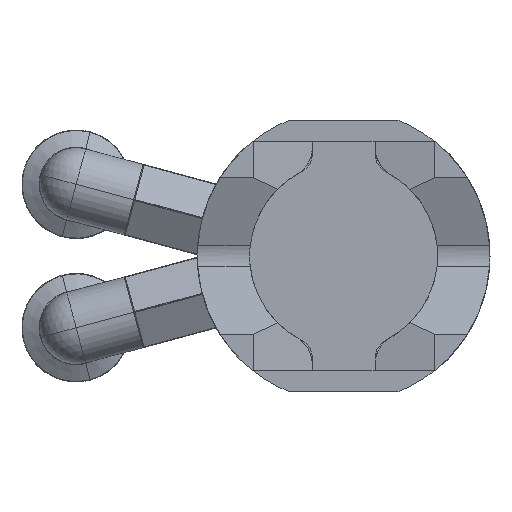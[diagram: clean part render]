
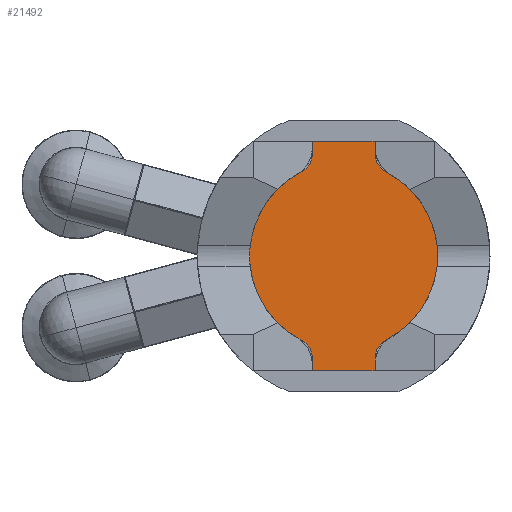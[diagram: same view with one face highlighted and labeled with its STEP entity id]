
A CAD part, front view. The second image highlights one B-rep face of the part: STEP entity #21492.
In plain terms, the highlighted planar face has unit normal (0, -1, 0).
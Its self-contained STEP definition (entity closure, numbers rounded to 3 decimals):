
#87 = FACE_OUTER_BOUND ( 'NONE', #12064, .T. ) ;
#566 = EDGE_CURVE ( 'NONE', #17116, #2192, #9959, .T. ) ;
#1217 = LINE ( 'NONE', #23677, #22779 ) ;
#1314 = CARTESIAN_POINT ( 'NONE',  ( -4.091, 0., 8.017 ) ) ;
#1329 = CARTESIAN_POINT ( 'NONE',  ( -3., 0., 11. ) ) ;
#1337 = LINE ( 'NONE', #10671, #21092 ) ;
#1356 = EDGE_CURVE ( 'NONE', #10231, #7413, #11664, .T. ) ;
#1760 = EDGE_CURVE ( 'NONE', #11269, #5629, #8771, .T. ) ;
#2192 = VERTEX_POINT ( 'NONE', #1329 ) ;
#2257 = DIRECTION ( 'NONE',  ( 0., 1., 0. ) ) ;
#2764 = ORIENTED_EDGE ( 'NONE', *, *, #22683, .T. ) ;
#3322 = CARTESIAN_POINT ( 'NONE',  ( -3., 0., -11. ) ) ;
#3832 = ORIENTED_EDGE ( 'NONE', *, *, #566, .T. ) ;
#3840 = VECTOR ( 'NONE', #5884, 1000. ) ;
#3984 = EDGE_CURVE ( 'NONE', #5629, #17116, #13552, .T. ) ;
#4195 = AXIS2_PLACEMENT_3D ( 'NONE', #15300, #2257, #7775 ) ;
#4294 = CARTESIAN_POINT ( 'NONE',  ( 4.091, 0., -8.017 ) ) ;
#4378 = CARTESIAN_POINT ( 'NONE',  ( -3., 0., -9.798 ) ) ;
#4511 = DIRECTION ( 'NONE',  ( 1., 0., 0. ) ) ;
#4578 = VERTEX_POINT ( 'NONE', #13258 ) ;
#4913 = EDGE_CURVE ( 'NONE', #4578, #23754, #1217, .T. ) ;
#5629 = VERTEX_POINT ( 'NONE', #19044 ) ;
#5635 = CIRCLE ( 'NONE', #9965, 9. ) ;
#5702 = DIRECTION ( 'NONE',  ( 0., 0., 1. ) ) ;
#5884 = DIRECTION ( 'NONE',  ( -1., 0., 0. ) ) ;
#6121 = EDGE_CURVE ( 'NONE', #10354, #10231, #17650, .T. ) ;
#6195 = ORIENTED_EDGE ( 'NONE', *, *, #1760, .T. ) ;
#6708 = DIRECTION ( 'NONE',  ( 0., 0., -1. ) ) ;
#6886 = DIRECTION ( 'NONE',  ( 0., 1., 0. ) ) ;
#6974 = VERTEX_POINT ( 'NONE', #18476 ) ;
#7401 = ORIENTED_EDGE ( 'NONE', *, *, #13319, .T. ) ;
#7413 = VERTEX_POINT ( 'NONE', #4378 ) ;
#7775 = DIRECTION ( 'NONE',  ( 0., 0., 1. ) ) ;
#7792 = DIRECTION ( 'NONE',  ( 0., 1., 0. ) ) ;
#8106 = ORIENTED_EDGE ( 'NONE', *, *, #4913, .T. ) ;
#8491 = AXIS2_PLACEMENT_3D ( 'NONE', #23718, #6886, #20207 ) ;
#8657 = ORIENTED_EDGE ( 'NONE', *, *, #3984, .T. ) ;
#8771 = CIRCLE ( 'NONE', #18591, 2. ) ;
#8903 = VECTOR ( 'NONE', #9341, 1000. ) ;
#9090 = DIRECTION ( 'NONE',  ( 0., 1., 0. ) ) ;
#9341 = DIRECTION ( 'NONE',  ( 0., 0., -1. ) ) ;
#9959 = LINE ( 'NONE', #17478, #3840 ) ;
#9965 = AXIS2_PLACEMENT_3D ( 'NONE', #16731, #18674, #20052 ) ;
#10052 = CARTESIAN_POINT ( 'NONE',  ( -3., 0., 0. ) ) ;
#10231 = VERTEX_POINT ( 'NONE', #23190 ) ;
#10354 = VERTEX_POINT ( 'NONE', #1314 ) ;
#10565 = CIRCLE ( 'NONE', #23105, 2. ) ;
#10671 = CARTESIAN_POINT ( 'NONE',  ( 0., 0., -11. ) ) ;
#10742 = CARTESIAN_POINT ( 'NONE',  ( 3., 0., 11. ) ) ;
#11251 = CARTESIAN_POINT ( 'NONE',  ( 5., 0., -9.798 ) ) ;
#11269 = VERTEX_POINT ( 'NONE', #12335 ) ;
#11575 = EDGE_CURVE ( 'NONE', #6974, #10354, #19095, .T. ) ;
#11664 = CIRCLE ( 'NONE', #4195, 2. ) ;
#11994 = CARTESIAN_POINT ( 'NONE',  ( 0., 0., 0. ) ) ;
#12064 = EDGE_LOOP ( 'NONE', ( #22714, #17621, #7401, #12138, #8106, #23927, #23513, #6195, #8657, #3832, #2764, #12264 ) ) ;
#12111 = VERTEX_POINT ( 'NONE', #4294 ) ;
#12138 = ORIENTED_EDGE ( 'NONE', *, *, #13461, .T. ) ;
#12256 = AXIS2_PLACEMENT_3D ( 'NONE', #22559, #16580, #5702 ) ;
#12264 = ORIENTED_EDGE ( 'NONE', *, *, #11575, .T. ) ;
#12335 = CARTESIAN_POINT ( 'NONE',  ( 4.091, 0., 8.017 ) ) ;
#12796 = VECTOR ( 'NONE', #18981, 1000. ) ;
#13258 = CARTESIAN_POINT ( 'NONE',  ( 3., 0., -11. ) ) ;
#13319 = EDGE_CURVE ( 'NONE', #7413, #16030, #16862, .T. ) ;
#13461 = EDGE_CURVE ( 'NONE', #16030, #4578, #1337, .T. ) ;
#13552 = LINE ( 'NONE', #20954, #12796 ) ;
#13717 = DIRECTION ( 'NONE',  ( 0., -1., 0. ) ) ;
#14756 = CARTESIAN_POINT ( 'NONE',  ( 5., 0., 9.798 ) ) ;
#15068 = PLANE ( 'NONE',  #12256 ) ;
#15193 = DIRECTION ( 'NONE',  ( 0., 0., 1. ) ) ;
#15296 = AXIS2_PLACEMENT_3D ( 'NONE', #11994, #13717, #17431 ) ;
#15300 = CARTESIAN_POINT ( 'NONE',  ( -5., 0., -9.798 ) ) ;
#16030 = VERTEX_POINT ( 'NONE', #3322 ) ;
#16103 = LINE ( 'NONE', #10052, #16277 ) ;
#16277 = VECTOR ( 'NONE', #6708, 1000. ) ;
#16580 = DIRECTION ( 'NONE',  ( 0., 1., 0. ) ) ;
#16731 = CARTESIAN_POINT ( 'NONE',  ( 0., 0., 0. ) ) ;
#16855 = EDGE_CURVE ( 'NONE', #23754, #12111, #10565, .T. ) ;
#16862 = LINE ( 'NONE', #22254, #8903 ) ;
#17116 = VERTEX_POINT ( 'NONE', #10742 ) ;
#17431 = DIRECTION ( 'NONE',  ( 0., 0., -1. ) ) ;
#17478 = CARTESIAN_POINT ( 'NONE',  ( 0., 0., 11. ) ) ;
#17570 = CARTESIAN_POINT ( 'NONE',  ( 3., 0., -9.798 ) ) ;
#17621 = ORIENTED_EDGE ( 'NONE', *, *, #1356, .T. ) ;
#17650 = CIRCLE ( 'NONE', #15296, 9. ) ;
#18476 = CARTESIAN_POINT ( 'NONE',  ( -3., 0., 9.798 ) ) ;
#18591 = AXIS2_PLACEMENT_3D ( 'NONE', #14756, #9090, #20307 ) ;
#18674 = DIRECTION ( 'NONE',  ( 0., -1., 0. ) ) ;
#18981 = DIRECTION ( 'NONE',  ( 0., 0., 1. ) ) ;
#19044 = CARTESIAN_POINT ( 'NONE',  ( 3., 0., 9.798 ) ) ;
#19095 = CIRCLE ( 'NONE', #8491, 2. ) ;
#20052 = DIRECTION ( 'NONE',  ( 0., 0., -1. ) ) ;
#20207 = DIRECTION ( 'NONE',  ( 0., 0., 1. ) ) ;
#20307 = DIRECTION ( 'NONE',  ( 0., 0., 1. ) ) ;
#20954 = CARTESIAN_POINT ( 'NONE',  ( 3., 0., 0. ) ) ;
#21092 = VECTOR ( 'NONE', #4511, 1000. ) ;
#21492 = ADVANCED_FACE ( 'NONE', ( #87 ), #15068, .F. ) ;
#22254 = CARTESIAN_POINT ( 'NONE',  ( -3., 0., 0. ) ) ;
#22446 = EDGE_CURVE ( 'NONE', #12111, #11269, #5635, .T. ) ;
#22559 = CARTESIAN_POINT ( 'NONE',  ( 0., 0., 0. ) ) ;
#22683 = EDGE_CURVE ( 'NONE', #2192, #6974, #16103, .T. ) ;
#22714 = ORIENTED_EDGE ( 'NONE', *, *, #6121, .T. ) ;
#22779 = VECTOR ( 'NONE', #23915, 1000. ) ;
#23105 = AXIS2_PLACEMENT_3D ( 'NONE', #11251, #7792, #15193 ) ;
#23190 = CARTESIAN_POINT ( 'NONE',  ( -4.091, 0., -8.017 ) ) ;
#23513 = ORIENTED_EDGE ( 'NONE', *, *, #22446, .T. ) ;
#23677 = CARTESIAN_POINT ( 'NONE',  ( 3., 0., 0. ) ) ;
#23718 = CARTESIAN_POINT ( 'NONE',  ( -5., 0., 9.798 ) ) ;
#23754 = VERTEX_POINT ( 'NONE', #17570 ) ;
#23915 = DIRECTION ( 'NONE',  ( 0., 0., 1. ) ) ;
#23927 = ORIENTED_EDGE ( 'NONE', *, *, #16855, .T. ) ;
